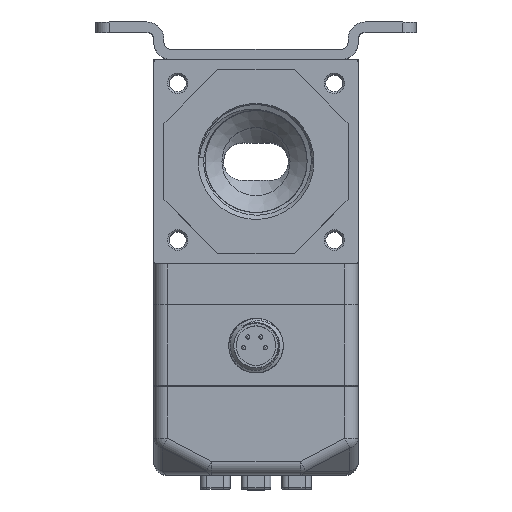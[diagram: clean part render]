
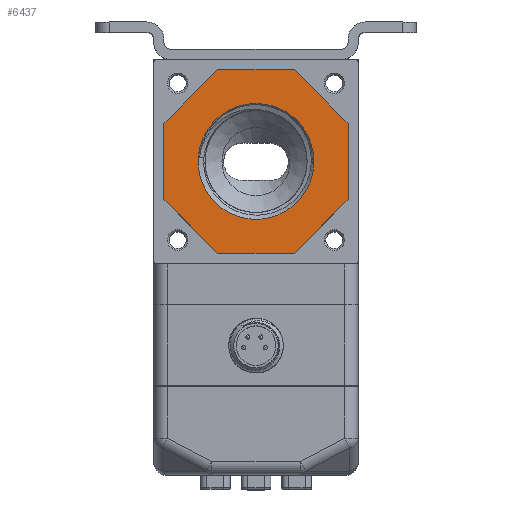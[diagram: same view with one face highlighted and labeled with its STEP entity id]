
A CAD part, top view. The second image highlights one B-rep face of the part: STEP entity #6437.
In plain terms, the highlighted planar face has unit normal (0, 0, 1).
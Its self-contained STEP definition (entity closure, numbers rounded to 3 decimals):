
#4851=FACE_BOUND('',#10053,.T.);
#4852=FACE_BOUND('',#10054,.T.);
#5520=CIRCLE('',#30283,8.5);
#6437=ADVANCED_FACE('',(#4851,#4852),#7756,.T.);
#7756=PLANE('',#30284);
#10053=EDGE_LOOP('',(#13589));
#10054=EDGE_LOOP('',(#13590,#13591,#13592,#13593,#13594,#13595,#13596,#13597));
#13589=ORIENTED_EDGE('',*,*,#22160,.T.);
#13590=ORIENTED_EDGE('',*,*,#22161,.T.);
#13591=ORIENTED_EDGE('',*,*,#22162,.T.);
#13592=ORIENTED_EDGE('',*,*,#22163,.T.);
#13593=ORIENTED_EDGE('',*,*,#22164,.T.);
#13594=ORIENTED_EDGE('',*,*,#22165,.T.);
#13595=ORIENTED_EDGE('',*,*,#22166,.T.);
#13596=ORIENTED_EDGE('',*,*,#22167,.T.);
#13597=ORIENTED_EDGE('',*,*,#22168,.T.);
#19352=VERTEX_POINT('',#41757);
#19353=VERTEX_POINT('',#41759);
#19354=VERTEX_POINT('',#41760);
#19355=VERTEX_POINT('',#41762);
#19356=VERTEX_POINT('',#41764);
#19357=VERTEX_POINT('',#41766);
#19358=VERTEX_POINT('',#41768);
#19359=VERTEX_POINT('',#41770);
#19360=VERTEX_POINT('',#41772);
#22160=EDGE_CURVE('',#19352,#19352,#5520,.T.);
#22161=EDGE_CURVE('',#19353,#19354,#25441,.T.);
#22162=EDGE_CURVE('',#19354,#19355,#25442,.T.);
#22163=EDGE_CURVE('',#19355,#19356,#25443,.T.);
#22164=EDGE_CURVE('',#19356,#19357,#25444,.T.);
#22165=EDGE_CURVE('',#19357,#19358,#25445,.T.);
#22166=EDGE_CURVE('',#19358,#19359,#25446,.T.);
#22167=EDGE_CURVE('',#19359,#19360,#25447,.T.);
#22168=EDGE_CURVE('',#19360,#19353,#25448,.T.);
#25441=LINE('',#41758,#27869);
#25442=LINE('',#41761,#27870);
#25443=LINE('',#41763,#27871);
#25444=LINE('',#41765,#27872);
#25445=LINE('',#41767,#27873);
#25446=LINE('',#41769,#27874);
#25447=LINE('',#41771,#27875);
#25448=LINE('',#41773,#27876);
#27869=VECTOR('',#33696,1.);
#27870=VECTOR('',#33697,1.);
#27871=VECTOR('',#33698,1.);
#27872=VECTOR('',#33699,1.);
#27873=VECTOR('',#33700,1.);
#27874=VECTOR('',#33701,1.);
#27875=VECTOR('',#33702,1.);
#27876=VECTOR('',#33703,1.);
#30283=AXIS2_PLACEMENT_3D('',#41756,#33694,#33695);
#30284=AXIS2_PLACEMENT_3D('',#41774,#33704,#33705);
#33694=DIRECTION('',(0.,0.,-1.));
#33695=DIRECTION('',(1.,0.,0.));
#33696=DIRECTION('',(0.,-1.,0.));
#33697=DIRECTION('',(0.707,-0.707,0.));
#33698=DIRECTION('',(1.,0.,0.));
#33699=DIRECTION('',(0.707,0.707,0.));
#33700=DIRECTION('',(0.,1.,0.));
#33701=DIRECTION('',(-0.707,0.707,0.));
#33702=DIRECTION('',(-1.,0.,0.));
#33703=DIRECTION('',(-0.707,-0.707,0.));
#33704=DIRECTION('',(0.,0.,1.));
#33705=DIRECTION('',(1.,0.,0.));
#41756=CARTESIAN_POINT('',(2.5,0.,52.));
#41757=CARTESIAN_POINT('',(11.,0.,52.));
#41758=CARTESIAN_POINT('',(-11.,5.592,52.));
#41759=CARTESIAN_POINT('',(-11.,5.592,52.));
#41760=CARTESIAN_POINT('',(-11.,-5.592,52.));
#41761=CARTESIAN_POINT('',(-11.,-5.592,52.));
#41762=CARTESIAN_POINT('',(-3.092,-13.5,52.));
#41763=CARTESIAN_POINT('',(-3.092,-13.5,52.));
#41764=CARTESIAN_POINT('',(8.092,-13.5,52.));
#41765=CARTESIAN_POINT('',(8.092,-13.5,52.));
#41766=CARTESIAN_POINT('',(16.,-5.592,52.));
#41767=CARTESIAN_POINT('',(16.,-5.592,52.));
#41768=CARTESIAN_POINT('',(16.,5.592,52.));
#41769=CARTESIAN_POINT('',(16.,5.592,52.));
#41770=CARTESIAN_POINT('',(8.092,13.5,52.));
#41771=CARTESIAN_POINT('',(8.092,13.5,52.));
#41772=CARTESIAN_POINT('',(-3.092,13.5,52.));
#41773=CARTESIAN_POINT('',(-3.092,13.5,52.));
#41774=CARTESIAN_POINT('',(0.,0.,52.));
